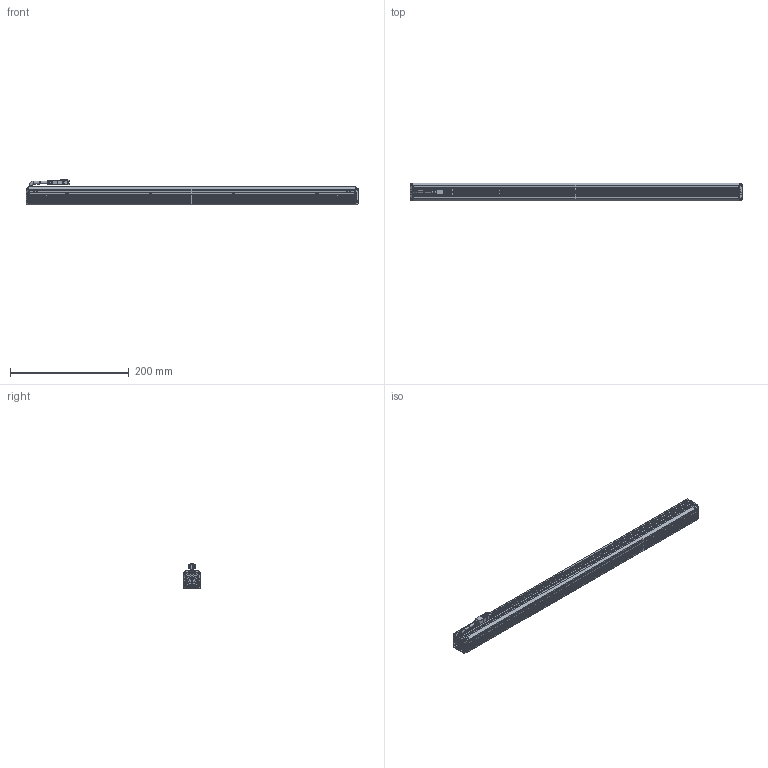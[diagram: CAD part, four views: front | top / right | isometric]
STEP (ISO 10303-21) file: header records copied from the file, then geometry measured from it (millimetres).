
FILE_DESCRIPTION((''),'2;1');
FILE_NAME('MV-LLDS-H-600-30-W-PL_ASM','2024-04-08T14:20:01',('huguozhe'),(''),'CREO PARAMETRIC BY PTC INC, 2020044','CREO PARAMETRIC BY PTC INC, 2020044','');
FILE_SCHEMA(('AUTOMOTIVE_DESIGN { 1 0 10303 214 1 1 1 1 }'));
Length unit declared in the file: millimetre
Products named in the file (15): DE-15-001268; DE-15-001267_ASM; DE-15-000516; DE-15-000515_ASM; DE-12-002271; TIP-M3X4-4_5X5-SO-ET-07061033; DE-12-002271_ASM; DE-12-001580; SC-KM2X6-BNI-GB819; XIANLAN_HEAD; CABLE_HEAD; CABLE_HEAD_ASM_ASM; 190100852; SC-PM2X6B-JMP; MV-LLDS-H-600-30-W-PL_ASM
Assembly tree (33 placements, depth 3):
  MV-LLDS-H-600-30-W-PL_ASM
    DE-15-001267_ASM
      DE-15-001268
    DE-15-000515_ASM
      DE-15-000516
    DE-12-002271_ASM  x2
      DE-12-002271
      TIP-M3X4-4_5X5-SO-ET-07061033
    DE-12-001580
    SC-KM2X6-BNI-GB819  x4
    CABLE_HEAD_ASM_ASM
      XIANLAN_HEAD
      CABLE_HEAD
    190100852  x8
    SC-PM2X6B-JMP  x8
Bounding box: 558 x 30 x 42.65 mm (x, y, z)
Volume: 384580 mm3; surface area: 207580.3 mm2
Topology: 31 solids, 67 shells, 2798 faces, 7224 edges, 4549 vertices
Faces by surface type: plane 1344, cylinder 610, bspline 472, cone 313, torus 50, sphere 8, extrusion 1
Entity records: 48108 total; most frequent: CARTESIAN_POINT 11232, ORIENTED_EDGE 6166, DIRECTION 5952, EDGE_CURVE 3115, VERTEX_POINT 1996, AXIS2_PLACEMENT_3D 1985, VECTOR 1982, LINE 1981
